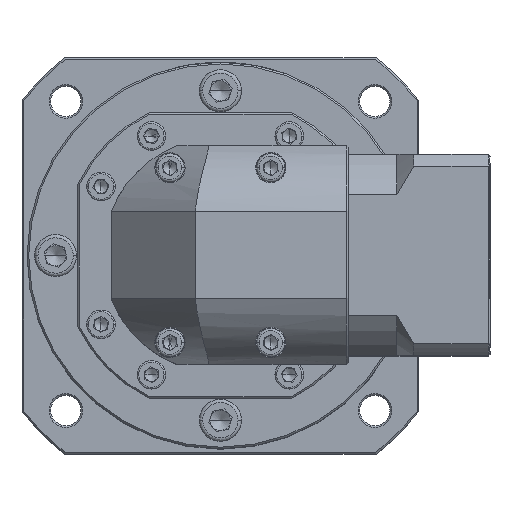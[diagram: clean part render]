
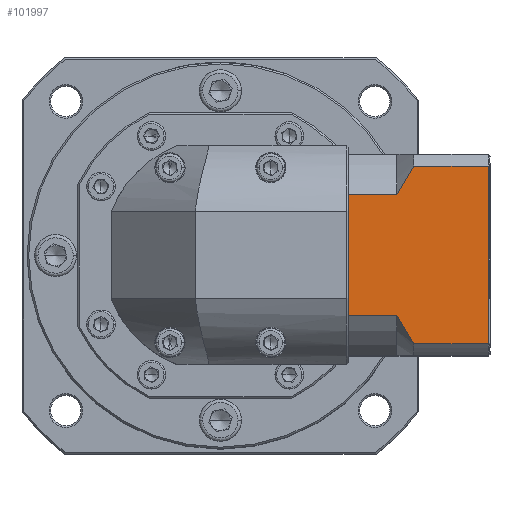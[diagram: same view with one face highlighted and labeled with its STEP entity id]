
A CAD part, top view. The second image highlights one B-rep face of the part: STEP entity #101997.
In plain terms, the highlighted planar face has unit normal (0, 0, 1).
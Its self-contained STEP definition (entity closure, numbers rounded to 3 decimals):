
#2266 = FACE_OUTER_BOUND ( 'NONE', #131540, .T. ) ;
#2772 = VECTOR ( 'NONE', #93877, 1000. ) ;
#3135 = LINE ( 'NONE', #21320, #119830 ) ;
#4149 = VERTEX_POINT ( 'NONE', #37829 ) ;
#8619 = CARTESIAN_POINT ( 'NONE',  ( 103.183, 111.74, 8.754 ) ) ;
#9594 = LINE ( 'NONE', #16862, #2772 ) ;
#9862 = CARTESIAN_POINT ( 'NONE',  ( 117.683, 63.713, 8.754 ) ) ;
#16862 = CARTESIAN_POINT ( 'NONE',  ( 117.683, 55.283, 8.754 ) ) ;
#17445 = DIRECTION ( 'NONE',  ( 1., 0., 0. ) ) ;
#21320 = CARTESIAN_POINT ( 'NONE',  ( 103.183, 111.74, 8.754 ) ) ;
#22371 = ORIENTED_EDGE ( 'NONE', *, *, #44318, .T. ) ;
#24622 = DIRECTION ( 'NONE',  ( 0., 0., -1. ) ) ;
#29492 = CARTESIAN_POINT ( 'NONE',  ( 118.431, 101.22, 8.754 ) ) ;
#30190 = CARTESIAN_POINT ( 'NONE',  ( 122.683, 55.283, 8.754 ) ) ;
#30398 = ORIENTED_EDGE ( 'NONE', *, *, #132039, .T. ) ;
#32586 = EDGE_CURVE ( 'NONE', #82738, #136737, #111196, .T. ) ;
#33412 = CARTESIAN_POINT ( 'NONE',  ( 144.883, 111.74, 8.754 ) ) ;
#33520 = DIRECTION ( 'NONE',  ( 1., 0., 0. ) ) ;
#33964 = CARTESIAN_POINT ( 'NONE',  ( 145.383, 111.74, 8.754 ) ) ;
#36055 = VECTOR ( 'NONE', #60760, 1000. ) ;
#37829 = CARTESIAN_POINT ( 'NONE',  ( 122.683, 55.283, 8.754 ) ) ;
#39414 = LINE ( 'NONE', #73104, #36055 ) ;
#41050 = CARTESIAN_POINT ( 'NONE',  ( 121.782, 56.646, 8.754 ) ) ;
#41509 = CARTESIAN_POINT ( 'NONE',  ( 119.234, 60.831, 8.754 ) ) ;
#42351 = ORIENTED_EDGE ( 'NONE', *, *, #135734, .F. ) ;
#44318 = EDGE_CURVE ( 'NONE', #45161, #136737, #124117, .T. ) ;
#45161 = VERTEX_POINT ( 'NONE', #114968 ) ;
#47365 = ORIENTED_EDGE ( 'NONE', *, *, #114171, .T. ) ;
#48991 = ORIENTED_EDGE ( 'NONE', *, *, #32586, .F. ) ;
#52865 = ORIENTED_EDGE ( 'NONE', *, *, #102237, .F. ) ;
#57963 = EDGE_CURVE ( 'NONE', #45161, #4149, #9594, .T. ) ;
#60170 = DIRECTION ( 'NONE',  ( -1., 0., 0. ) ) ;
#60760 = DIRECTION ( 'NONE',  ( 0., -1., 0. ) ) ;
#61227 = B_SPLINE_CURVE_WITH_KNOTS ( 'NONE', 3,
 ( #82750, #106401, #41509, #62722, #41050, #30190 ),
 .UNSPECIFIED., .F., .F.,
 ( 4, 2, 4 ),
 ( 0.1, 0.104, 0.109 ),
 .UNSPECIFIED. ) ;
#62722 = CARTESIAN_POINT ( 'NONE',  ( 120.908, 58.025, 8.754 ) ) ;
#63054 = VECTOR ( 'NONE', #65038, 1000. ) ;
#63907 = CARTESIAN_POINT ( 'NONE',  ( 117.683, 99.768, 8.754 ) ) ;
#64581 = ORIENTED_EDGE ( 'NONE', *, *, #57963, .F. ) ;
#65038 = DIRECTION ( 'NONE',  ( 0., 1., 0. ) ) ;
#66687 = ORIENTED_EDGE ( 'NONE', *, *, #94539, .T. ) ;
#68447 = VERTEX_POINT ( 'NONE', #80429 ) ;
#69629 = VECTOR ( 'NONE', #17445, 1000. ) ;
#70628 = CARTESIAN_POINT ( 'NONE',  ( 117.683, 63.713, 8.754 ) ) ;
#71293 = CARTESIAN_POINT ( 'NONE',  ( 117.683, 108.198, 8.754 ) ) ;
#71366 = LINE ( 'NONE', #92122, #69629 ) ;
#73104 = CARTESIAN_POINT ( 'NONE',  ( 103.183, 111.74, 8.754 ) ) ;
#75576 = DIRECTION ( 'NONE',  ( 0., -1., 0. ) ) ;
#75856 = VECTOR ( 'NONE', #60170, 1000. ) ;
#76950 = CARTESIAN_POINT ( 'NONE',  ( 103.183, 99.768, 8.754 ) ) ;
#77648 = VERTEX_POINT ( 'NONE', #9862 ) ;
#79261 = LINE ( 'NONE', #70628, #75856 ) ;
#80429 = CARTESIAN_POINT ( 'NONE',  ( 117.683, 99.768, 8.754 ) ) ;
#82738 = VERTEX_POINT ( 'NONE', #125455 ) ;
#82750 = CARTESIAN_POINT ( 'NONE',  ( 117.683, 63.713, 8.754 ) ) ;
#83906 = CARTESIAN_POINT ( 'NONE',  ( 122.683, 108.198, 8.754 ) ) ;
#84277 = CARTESIAN_POINT ( 'NONE',  ( 144.883, 108.198, 8.754 ) ) ;
#87502 = VECTOR ( 'NONE', #96936, 1000. ) ;
#91403 = VECTOR ( 'NONE', #137700, 1000. ) ;
#92122 = CARTESIAN_POINT ( 'NONE',  ( 117.683, 99.768, 8.754 ) ) ;
#92637 = VERTEX_POINT ( 'NONE', #130959 ) ;
#93877 = DIRECTION ( 'NONE',  ( -1., 0., 0. ) ) ;
#94539 = EDGE_CURVE ( 'NONE', #92637, #138767, #39414, .T. ) ;
#96936 = DIRECTION ( 'NONE',  ( 1., 0., 0. ) ) ;
#99982 = EDGE_CURVE ( 'NONE', #104324, #92637, #138747, .T. ) ;
#101997 = ADVANCED_FACE ( 'NONE', ( #2266 ), #110625, .F. ) ;
#102237 = EDGE_CURVE ( 'NONE', #133303, #68447, #71366, .T. ) ;
#104324 = VERTEX_POINT ( 'NONE', #140035 ) ;
#106401 = CARTESIAN_POINT ( 'NONE',  ( 118.433, 62.256, 8.754 ) ) ;
#107082 = CARTESIAN_POINT ( 'NONE',  ( 120.91, 105.459, 8.754 ) ) ;
#107445 = AXIS2_PLACEMENT_3D ( 'NONE', #33964, #24622, #33520 ) ;
#110625 = PLANE ( 'NONE',  #107445 ) ;
#111196 = LINE ( 'NONE', #71293, #87502 ) ;
#113660 = CARTESIAN_POINT ( 'NONE',  ( 103.183, 63.713, 8.754 ) ) ;
#114171 = EDGE_CURVE ( 'NONE', #133303, #104324, #3135, .T. ) ;
#114968 = CARTESIAN_POINT ( 'NONE',  ( 144.883, 55.283, 8.754 ) ) ;
#116063 = CARTESIAN_POINT ( 'NONE',  ( 121.784, 106.838, 8.754 ) ) ;
#119830 = VECTOR ( 'NONE', #75576, 1000. ) ;
#120400 = B_SPLINE_CURVE_WITH_KNOTS ( 'NONE', 3,
 ( #83906, #116063, #107082, #128820, #29492, #63907 ),
 .UNSPECIFIED., .F., .F.,
 ( 4, 2, 4 ),
 ( 0.052, 0.057, 0.062 ),
 .UNSPECIFIED. ) ;
#120798 = EDGE_CURVE ( 'NONE', #77648, #4149, #61227, .T. ) ;
#124117 = LINE ( 'NONE', #33412, #63054 ) ;
#125455 = CARTESIAN_POINT ( 'NONE',  ( 122.683, 108.198, 8.754 ) ) ;
#127608 = ORIENTED_EDGE ( 'NONE', *, *, #99982, .T. ) ;
#128820 = CARTESIAN_POINT ( 'NONE',  ( 119.235, 102.652, 8.754 ) ) ;
#130959 = CARTESIAN_POINT ( 'NONE',  ( 103.183, 64.704, 8.754 ) ) ;
#131540 = EDGE_LOOP ( 'NONE', ( #64581, #22371, #48991, #30398, #52865, #47365, #127608, #66687, #42351, #137716 ) ) ;
#132039 = EDGE_CURVE ( 'NONE', #82738, #68447, #120400, .T. ) ;
#133303 = VERTEX_POINT ( 'NONE', #76950 ) ;
#135734 = EDGE_CURVE ( 'NONE', #77648, #138767, #79261, .T. ) ;
#136737 = VERTEX_POINT ( 'NONE', #84277 ) ;
#137700 = DIRECTION ( 'NONE',  ( 0., -1., 0. ) ) ;
#137716 = ORIENTED_EDGE ( 'NONE', *, *, #120798, .T. ) ;
#138747 = LINE ( 'NONE', #8619, #91403 ) ;
#138767 = VERTEX_POINT ( 'NONE', #113660 ) ;
#140035 = CARTESIAN_POINT ( 'NONE',  ( 103.183, 98.777, 8.754 ) ) ;
